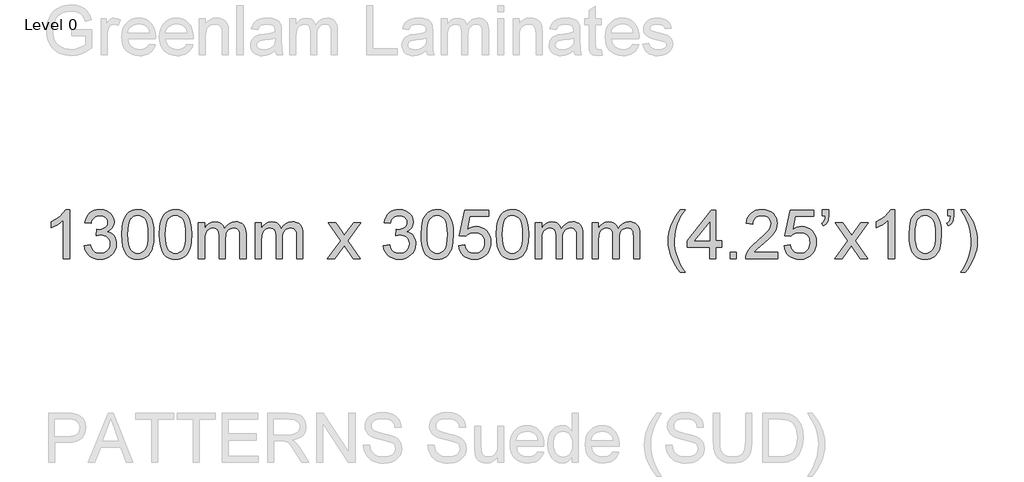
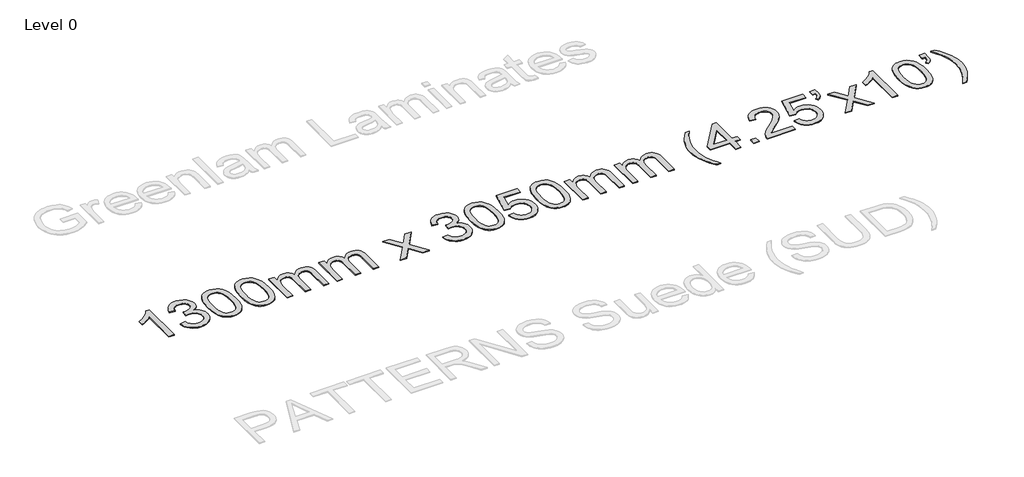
# One storey, part 28 of 29: 1 proxy.
"""IFC4 building model written with IfcOpenShell, lengths in millimetres."""

from ifc_helpers import new_model, si_unit, origin, origin_with_axes, place, context, project, spatial, polyline, outline, extrude, element, save

model = new_model("IFC4")

# Units and contexts
model_context = context("Model", 3, world=origin())
ifc_project = project(units=[si_unit("LENGTHUNIT", "METRE", prefix="MILLI")], contexts=[model_context])

# Site, building, storey
site = spatial("IfcSite", under=ifc_project)
building = spatial("IfcBuilding", under=site)
storey = spatial("IfcBuildingStorey", under=building, Name="Level 0", Elevation=0.0)

# Proxy
placement = place(None, origin())
element("IfcBuildingElementProxy", 1, Name="600mm Arial", ObjectType="600mm Arial", at=placement, inside=storey, context=model_context, shape_type="SweptSolid", body=[
    extrude(outline(polyline([(-10623.1831502, 260.1279527), (-10698.5253828, 260.1279527), (-10698.5253828, 729.8396841), (-10729.9792934, 704.4006441), (-10769.8944899, 678.9983924), (-10811.7962491, 656.796714), (-10849.209848, 640.9593941), (-10849.209848, 712.1813483), (-10790.0360291, 744.3710229), (-10738.7716731, 782.6675386), (-10698.3598359, 823.3920755), (-10671.7435735, 862.8658136), (-10623.1831502, 862.8658136), (-10623.1831502, 260.1279527)])), origin_with_axes(), (0.0, 0.0, 1.0), 10.0),
    extrude(outline(polyline([(-10444.2453477, 420.230197), (-10368.9031151, 429.647976), (-10352.0357256, 382.3015633), (-10340.6635735, 364.3949072), (-10327.3324497, 350.3326179), (-10311.7388516, 339.7100253), (-10293.5792766, 332.1224591), (-10272.8537247, 327.5699194), (-10249.5621959, 326.0524062), (-10222.2653518, 328.1401365), (-10197.9115638, 334.4033275), (-10176.5008316, 344.8419791), (-10158.0331555, 359.4560914), (-10143.1615258, 377.1512153), (-10132.5389332, 396.8329021), (-10126.1653776, 418.5011516), (-10124.0408591, 442.1559639), (-10126.1469835, 464.6841376), (-10132.4653568, 485.1797632), (-10142.9959789, 503.6428409), (-10157.7388499, 520.0733705), (-10175.7282794, 533.5608441), (-10195.9985774, 543.1947539), (-10218.5497437, 548.9750997), (-10243.3817784, 550.9018817), (-10267.1837434, 548.8417425), (-10296.2096329, 542.661325), (-10287.8219234, 618.0035576), (-10275.7553939, 617.1206408), (-10230.6162731, 622.5285061), (-10190.2596183, 638.7521021), (-10173.6497462, 651.0209666), (-10161.7855518, 666.1960989), (-10154.6670352, 684.277499), (-10152.2941963, 705.2651668), (-10154.0140447, 722.3027017), (-10159.1735897, 737.8043293), (-10167.7728313, 751.7700496), (-10179.8117696, 764.1998625), (-10194.5638376, 774.4039893), (-10211.3024684, 781.6926513), (-10250.7394183, 787.523581), (-10271.3959923, 786.052053), (-10290.2499445, 781.637469), (-10307.301275, 774.2798291), (-10322.5499837, 763.9791333), (-10335.6189916, 750.7353814), (-10346.1312196, 734.5485737), (-10354.0866678, 715.4187099), (-10359.485336, 693.3457902), (-10434.8275686, 702.7635693), (-10425.8972332, 738.7332313), (-10412.6442843, 770.4170682), (-10395.068722, 797.8150798), (-10373.1705463, 820.9272661), (-10347.6395358, 839.2753806), (-10319.1654694, 852.3811767), (-10287.748347, 860.2446544), (-10253.3881686, 862.8658136), (-10206.0233617, 857.6970715), (-10162.5213158, 842.1908454), (-10125.8434809, 817.7266928), (-10098.951307, 785.684171), (-10082.4517996, 748.7672128), (-10076.9519637, 709.6797508), (-10082.1758881, 673.2594333), (-10097.8476611, 640.2236301), (-10123.7465535, 612.0806575), (-10159.6518363, 590.3388315), (-10134.5438901, 582.4845509), (-10112.4893645, 571.2825442), (-10093.4882594, 556.7328113), (-10077.5405749, 538.8353522), (-10064.9222225, 518.0316254), (-10055.9091136, 494.7630892), (-10050.5012483, 469.0297436), (-10048.6986265, 440.8315887), (-10052.3038701, 402.6086494), (-10063.1196007, 367.4023425), (-10081.1458185, 335.2126679), (-10106.3825234, 306.0396257), (-10137.1282611, 281.8329904), (-10171.6815775, 264.5425366), (-10210.0424725, 254.1682643), (-10252.2109462, 250.7101736), (-10290.3235209, 253.6624266), (-10325.0515813, 262.5191856), (-10356.3951273, 277.2804507), (-10384.3541589, 297.9462218), (-10407.797439, 323.3024883), (-10425.5937306, 352.1352397), (-10437.7430335, 384.4444759), (-10444.2453477, 420.230197)])), origin_with_axes(), (0.0, 0.0, 1.0), 10.0),
    extrude(outline(polyline([(-9982.774173, 556.6408408), (-9977.2375489, 653.117894), (-9970.3167689, 694.0309704), (-9960.6276769, 730.0604133), (-9948.2116595, 761.5005283), (-9933.1101036, 788.645621), (-9915.3230092, 811.4956915), (-9894.8503761, 830.0507396), (-9871.6232267, 844.4073345), (-9845.5725829, 854.6620451), (-9816.6984448, 860.8148714), (-9785.0008124, 862.8658136), (-9738.5741046, 858.0097712), (-9697.0034391, 843.4416442), (-9662.2385906, 819.7316496), (-9636.2293335, 787.4500046), (-9616.584435, 746.8726205), (-9600.912662, 698.2754089), (-9590.6487543, 636.5632042), (-9587.2274518, 556.6408408), (-9592.7088935, 460.7156105), (-9599.5606956, 419.9404899), (-9609.1532187, 383.9570322), (-9621.472667, 352.5031217), (-9636.505245, 325.3166422), (-9654.2509528, 302.3975939), (-9674.7097902, 283.7459768), (-9697.9645308, 269.2928129), (-9724.0979481, 258.9691244), (-9753.1100419, 252.7749113), (-9785.0008124, 250.7101736), (-9826.4979014, 254.297023), (-9863.2861009, 265.0575714), (-9895.3654109, 282.9918187), (-9922.7358314, 308.0997648), (-9949.0026058, 353.487206), (-9967.7645876, 410.0398657), (-9979.0217766, 477.757744), (-9982.774173, 556.6408408)]), holes=[polyline([(-9907.4319404, 556.7879936), (-9905.2246484, 491.2912029), (-9898.6027725, 438.2748088), (-9887.5663126, 397.7388115), (-9872.1152688, 369.6832108), (-9853.4268635, 350.5947338), (-9832.6783189, 336.9601074), (-9809.8696352, 328.7793315), (-9785.0008124, 326.0524062), (-9760.1319895, 328.7885285), (-9737.3233058, 336.9968956), (-9716.5747613, 350.6775073), (-9697.8863559, 369.8303636), (-9682.4353121, 397.9319495), (-9671.3988523, 438.4587498), (-9664.7769763, 491.4107645), (-9662.5696844, 556.7879936), (-9664.7033999, 620.5511404), (-9671.1045467, 672.6340339), (-9681.7731245, 713.036674), (-9696.7091335, 741.7590608), (-9715.0848392, 761.7810383), (-9736.072507, 776.0824509), (-9759.672137, 784.6632984), (-9785.8837292, 787.523581), (-9810.6237933, 785.0035893), (-9833.0462009, 777.4436143), (-9853.150952, 764.843656), (-9870.9380464, 747.2037143), (-9886.904125, 715.9337447), (-9898.3084669, 673.774468), (-9905.151072, 620.7258843), (-9907.4319404, 556.7879936)])]), origin_with_axes(), (0.0, 0.0, 1.0), 10.0),
    extrude(outline(polyline([(-9521.3029982, 556.6408408), (-9515.7663742, 653.117894), (-9508.8455942, 694.0309704), (-9499.1565021, 730.0604133), (-9486.7404848, 761.5005283), (-9471.6389289, 788.645621), (-9453.8518344, 811.4956915), (-9433.3792014, 830.0507396), (-9410.1520519, 844.4073345), (-9384.1014081, 854.6620451), (-9355.22727, 860.8148714), (-9323.5296376, 862.8658136), (-9277.1029298, 858.0097712), (-9235.5322644, 843.4416442), (-9200.7674158, 819.7316496), (-9174.7581588, 787.4500046), (-9155.1132602, 746.8726205), (-9139.4414872, 698.2754089), (-9129.1775796, 636.5632042), (-9125.756277, 556.6408408), (-9131.2377187, 460.7156105), (-9138.0895209, 419.9404899), (-9147.6820439, 383.9570322), (-9160.0014922, 352.5031217), (-9175.0340703, 325.3166422), (-9192.779778, 302.3975939), (-9213.2386155, 283.7459768), (-9236.4933561, 269.2928129), (-9262.6267733, 258.9691244), (-9291.6388672, 252.7749113), (-9323.5296376, 250.7101736), (-9365.0267267, 254.297023), (-9401.8149262, 265.0575714), (-9433.8942362, 282.9918187), (-9461.2646566, 308.0997648), (-9487.5314311, 353.487206), (-9506.2934128, 410.0398657), (-9517.5506019, 477.757744), (-9521.3029982, 556.6408408)]), holes=[polyline([(-9445.9607656, 556.7879936), (-9443.7534736, 491.2912029), (-9437.1315977, 438.2748088), (-9426.0951379, 397.7388115), (-9410.6440941, 369.6832108), (-9391.9556887, 350.5947338), (-9371.2071442, 336.9601074), (-9348.3984605, 328.7793315), (-9323.5296376, 326.0524062), (-9298.6608147, 328.7885285), (-9275.852131, 336.9968956), (-9255.1035865, 350.6775073), (-9236.4151812, 369.8303636), (-9220.9641374, 397.9319495), (-9209.9276775, 438.4587498), (-9203.3058016, 491.4107645), (-9201.0985096, 556.7879936), (-9203.2322252, 620.5511404), (-9209.6333719, 672.6340339), (-9220.3019498, 713.036674), (-9235.2379588, 741.7590608), (-9253.6136644, 761.7810383), (-9274.6013323, 776.0824509), (-9298.2009622, 784.6632984), (-9324.4125544, 787.523581), (-9349.1526186, 785.0035893), (-9371.5750262, 777.4436143), (-9391.6797772, 764.843656), (-9409.4668717, 747.2037143), (-9425.4329503, 715.9337447), (-9436.8372921, 673.774468), (-9443.6798972, 620.7258843), (-9445.9607656, 556.7879936)])]), origin_with_axes(), (0.0, 0.0, 1.0), 10.0),
    extrude(outline(polyline([(-9040.9962653, 260.1279527), (-9040.9962653, 702.7635693), (-8965.6540327, 702.7635693), (-8965.6540327, 629.9229342), (-8942.9925018, 663.3818017), (-8913.8562478, 689.5933938), (-8879.238552, 706.5343597), (-8840.132696, 712.1813483), (-8798.2309367, 706.4239951), (-8780.397857, 699.2273036), (-8764.6433105, 689.1519354), (-8739.5537585, 661.5056035), (-8723.1462215, 624.6254335), (-8695.6838305, 662.9311462), (-8664.3586787, 690.2923696), (-8629.1707658, 706.7091037), (-8590.120092, 712.1813483), (-8559.958367, 709.9050785), (-8533.4846589, 703.076269), (-8510.6989678, 691.6949197), (-8491.6012937, 675.7610308), (-8476.5043363, 655.0906612), (-8465.7207954, 629.4998699), (-8459.2506708, 598.988657), (-8457.0939626, 563.5570223), (-8457.0939626, 260.1279527), (-8532.4361952, 260.1279527), (-8532.4361952, 531.1834067), (-8534.1836347, 568.7625525), (-8539.4259531, 594.0912279), (-8549.2484024, 611.436864), (-8564.7362344, 625.0668919), (-8584.6570444, 633.8960598), (-8607.7784278, 636.8391157), (-8629.1293791, 634.9537205), (-8648.5949352, 629.2975348), (-8666.175096, 619.8705587), (-8681.8698616, 606.6727921), (-8694.7779211, 589.317959), (-8703.9979636, 567.4197832), (-8709.5299891, 540.9782648), (-8711.3739976, 509.9934038), (-8711.3739976, 260.1279527), (-8786.7162303, 260.1279527), (-8786.7162303, 539.5711162), (-8791.0756319, 582.1718512), (-8796.5248839, 598.8920879), (-8804.1538368, 612.5589041), (-8814.2659932, 623.1814967), (-8827.1648556, 630.7690628), (-8842.8504242, 635.3216025), (-8861.3226989, 636.8391157), (-8890.3485883, 632.7924138), (-8917.0936093, 620.6523079), (-8939.1665291, 600.7131038), (-8954.1761145, 573.269107), (-8962.7845531, 535.1933205), (-8965.6540327, 483.3587473), (-8965.6540327, 260.1279527), (-9040.9962653, 260.1279527)])), origin_with_axes(), (0.0, 0.0, 1.0), 10.0),
    extrude(outline(polyline([(-8344.0806137, 260.1279527), (-8344.0806137, 702.7635693), (-8268.738381, 702.7635693), (-8268.738381, 629.9229342), (-8246.0768501, 663.3818017), (-8216.9405961, 689.5933938), (-8182.3229004, 706.5343597), (-8143.2170443, 712.1813483), (-8101.315285, 706.4239951), (-8083.4822053, 699.2273036), (-8067.7276589, 689.1519354), (-8042.6381068, 661.5056035), (-8026.2305698, 624.6254335), (-7998.7681789, 662.9311462), (-7967.443027, 690.2923696), (-7932.2551142, 706.7091037), (-7893.2044404, 712.1813483), (-7863.0427153, 709.9050785), (-7836.5690072, 703.076269), (-7813.7833161, 691.6949197), (-7794.6856421, 675.7610308), (-7779.5886847, 655.0906612), (-7768.8051437, 629.4998699), (-7762.3350191, 598.988657), (-7760.1783109, 563.5570223), (-7760.1783109, 260.1279527), (-7835.5205435, 260.1279527), (-7835.5205435, 531.1834067), (-7837.267983, 568.7625525), (-7842.5103014, 594.0912279), (-7852.3327507, 611.436864), (-7867.8205827, 625.0668919), (-7887.7413927, 633.8960598), (-7910.8627761, 636.8391157), (-7932.2137274, 634.9537205), (-7951.6792835, 629.2975348), (-7969.2594443, 619.8705587), (-7984.95421, 606.6727921), (-7997.8622695, 589.317959), (-8007.082312, 567.4197832), (-8012.6143375, 540.9782648), (-8014.458346, 509.9934038), (-8014.458346, 260.1279527), (-8089.8005786, 260.1279527), (-8089.8005786, 539.5711162), (-8094.1599802, 582.1718512), (-8099.6092323, 598.8920879), (-8107.2381852, 612.5589041), (-8117.3503415, 623.1814967), (-8130.249204, 630.7690628), (-8145.9347725, 635.3216025), (-8164.4070472, 636.8391157), (-8193.4329366, 632.7924138), (-8220.1779577, 620.6523079), (-8242.2508774, 600.7131038), (-8257.2604628, 573.269107), (-8265.8689015, 535.1933205), (-8268.738381, 483.3587473), (-8268.738381, 260.1279527), (-8344.0806137, 260.1279527)])), origin_with_axes(), (0.0, 0.0, 1.0), 10.0),
    extrude(outline(polyline([(-7458.8093805, 260.1279527), (-7297.8242194, 482.6229834), (-7449.3916014, 702.7635693), (-7358.7454778, 702.7635693), (-7285.6105371, 596.8135547), (-7251.471088, 546.7816033), (-7221.8933756, 587.6900812), (-7138.6048919, 702.7635693), (-7047.9587682, 702.7635693), (-7207.1780958, 482.6229834), (-7053.8448802, 260.1279527), (-7144.4910038, 260.1279527), (-7236.7558082, 393.8898461), (-7253.67838, 418.3172106), (-7368.1632569, 260.1279527), (-7458.8093805, 260.1279527)])), origin_with_axes(), (0.0, 0.0, 1.0), 10.0),
    extrude(outline(polyline([(-6771.3115079, 420.230197), (-6695.9692753, 429.647976), (-6679.1018858, 382.3015633), (-6667.7297336, 364.3949072), (-6654.3986098, 350.3326179), (-6638.8050117, 339.7100253), (-6620.6454368, 332.1224591), (-6599.9198848, 327.5699194), (-6576.628356, 326.0524062), (-6549.331512, 328.1401365), (-6524.9777239, 334.4033275), (-6503.5669918, 344.8419791), (-6485.0993156, 359.4560914), (-6470.227686, 377.1512153), (-6459.6050934, 396.8329021), (-6453.2315378, 418.5011516), (-6451.1070193, 442.1559639), (-6453.2131437, 464.6841376), (-6459.531517, 485.1797632), (-6470.0621391, 503.6428409), (-6484.80501, 520.0733705), (-6502.7944396, 533.5608441), (-6523.0647375, 543.1947539), (-6545.6159038, 548.9750997), (-6570.4479385, 550.9018817), (-6594.2499036, 548.8417425), (-6623.275793, 542.661325), (-6614.8880835, 618.0035576), (-6602.8215541, 617.1206408), (-6557.6824333, 622.5285061), (-6517.3257784, 638.7521021), (-6500.7159063, 651.0209666), (-6488.851712, 666.1960989), (-6481.7331954, 684.277499), (-6479.3603565, 705.2651668), (-6481.0802048, 722.3027017), (-6486.2397498, 737.8043293), (-6494.8389915, 751.7700496), (-6506.8779297, 764.1998625), (-6521.6299977, 774.4039893), (-6538.3686285, 781.6926513), (-6577.8055784, 787.523581), (-6598.4621524, 786.052053), (-6617.3161047, 781.637469), (-6634.3674352, 774.2798291), (-6649.6161439, 763.9791333), (-6662.6851517, 750.7353814), (-6673.1973798, 734.5485737), (-6681.1528279, 715.4187099), (-6686.5514962, 693.3457902), (-6761.8937288, 702.7635693), (-6752.9633934, 738.7332313), (-6739.7104445, 770.4170682), (-6722.1348822, 797.8150798), (-6700.2367064, 820.9272661), (-6674.7056959, 839.2753806), (-6646.2316295, 852.3811767), (-6614.8145071, 860.2446544), (-6580.4543288, 862.8658136), (-6533.0895219, 857.6970715), (-6489.587476, 842.1908454), (-6452.9096411, 817.7266928), (-6426.0174672, 785.684171), (-6409.5179597, 748.7672128), (-6404.0181239, 709.6797508), (-6409.2420482, 673.2594333), (-6424.9138212, 640.2236301), (-6450.8127137, 612.0806575), (-6486.7179964, 590.3388315), (-6461.6100502, 582.4845509), (-6439.5555246, 571.2825442), (-6420.5544196, 556.7328113), (-6404.6067351, 538.8353522), (-6391.9883826, 518.0316254), (-6382.9752738, 494.7630892), (-6377.5674084, 469.0297436), (-6375.7647867, 440.8315887), (-6379.3700302, 402.6086494), (-6390.1857609, 367.4023425), (-6408.2119786, 335.2126679), (-6433.4486835, 306.0396257), (-6464.1944213, 281.8329904), (-6498.7477376, 264.5425366), (-6537.1086327, 254.1682643), (-6579.2771064, 250.7101736), (-6617.3896811, 253.6624266), (-6652.1177414, 262.5191856), (-6683.4612874, 277.2804507), (-6711.4203191, 297.9462218), (-6734.8635992, 323.3024883), (-6752.6598907, 352.1352397), (-6764.8091936, 384.4444759), (-6771.3115079, 420.230197)])), origin_with_axes(), (0.0, 0.0, 1.0), 10.0),
    extrude(outline(polyline([(-6309.8403331, 556.6408408), (-6304.3037091, 653.117894), (-6297.3829291, 694.0309704), (-6287.693837, 730.0604133), (-6275.2778197, 761.5005283), (-6260.1762638, 788.645621), (-6242.3891693, 811.4956915), (-6221.9165363, 830.0507396), (-6198.6893868, 844.4073345), (-6172.638743, 854.6620451), (-6143.7646049, 860.8148714), (-6112.0669725, 862.8658136), (-6065.6402647, 858.0097712), (-6024.0695993, 843.4416442), (-5989.3047507, 819.7316496), (-5963.2954937, 787.4500046), (-5943.6505951, 746.8726205), (-5927.9788221, 698.2754089), (-5917.7149145, 636.5632042), (-5914.2936119, 556.6408408), (-5919.7750536, 460.7156105), (-5926.6268558, 419.9404899), (-5936.2193788, 383.9570322), (-5948.5388271, 352.5031217), (-5963.5714052, 325.3166422), (-5981.3171129, 302.3975939), (-6001.7759504, 283.7459768), (-6025.030691, 269.2928129), (-6051.1641082, 258.9691244), (-6080.1762021, 252.7749113), (-6112.0669725, 250.7101736), (-6153.5640616, 254.297023), (-6190.3522611, 265.0575714), (-6222.4315711, 282.9918187), (-6249.8019915, 308.0997648), (-6276.068766, 353.487206), (-6294.8307477, 410.0398657), (-6306.0879368, 477.757744), (-6309.8403331, 556.6408408)]), holes=[polyline([(-6234.4981005, 556.7879936), (-6232.2908085, 491.2912029), (-6225.6689326, 438.2748088), (-6214.6324728, 397.7388115), (-6199.181429, 369.6832108), (-6180.4930236, 350.5947338), (-6159.7444791, 336.9601074), (-6136.9357954, 328.7793315), (-6112.0669725, 326.0524062), (-6087.1981496, 328.7885285), (-6064.3894659, 336.9968956), (-6043.6409214, 350.6775073), (-6024.9525161, 369.8303636), (-6009.5014723, 397.9319495), (-5998.4650124, 438.4587498), (-5991.8431365, 491.4107645), (-5989.6358445, 556.7879936), (-5991.7695601, 620.5511404), (-5998.1707068, 672.6340339), (-6008.8392847, 713.036674), (-6023.7752937, 741.7590608), (-6042.1509993, 761.7810383), (-6063.1386672, 776.0824509), (-6086.7382972, 784.6632984), (-6112.9498893, 787.523581), (-6137.6899535, 785.0035893), (-6160.1123611, 777.4436143), (-6180.2171121, 764.843656), (-6198.0042066, 747.2037143), (-6213.9702852, 715.9337447), (-6225.374627, 673.774468), (-6232.2172321, 620.7258843), (-6234.4981005, 556.7879936)])]), origin_with_axes(), (0.0, 0.0, 1.0), 10.0),
    extrude(outline(polyline([(-5848.3691584, 420.230197), (-5773.0269258, 429.647976), (-5767.3983312, 405.4275452), (-5759.1945627, 384.4168847), (-5748.4156203, 366.6159947), (-5735.0615039, 352.0248751), (-5719.1598046, 340.6619199), (-5700.7381137, 332.5455234), (-5679.7964311, 327.6756855), (-5656.3347569, 326.0524062), (-5627.6399613, 328.310282), (-5602.32968, 335.0839092), (-5580.4039131, 346.3732879), (-5561.8626605, 362.1784181), (-5547.1197896, 381.7175506), (-5536.5891675, 404.2089361), (-5530.2707942, 429.6525746), (-5528.1646698, 458.0484661), (-5530.137437, 484.8854576), (-5536.0557386, 508.742605), (-5545.9195746, 529.6199082), (-5559.728945, 547.5173673), (-5577.529835, 561.8739622), (-5599.3682299, 572.1286728), (-5625.2441298, 578.2814991), (-5655.1575345, 580.3324413), (-5691.7066107, 577.0582915), (-5721.3027172, 567.2358422), (-5744.9391354, 552.1894686), (-5763.6091467, 533.2435459), (-5838.9513793, 542.661325), (-5773.0269258, 853.4480345), (-5481.0757744, 853.4480345), (-5481.0757744, 778.1058019), (-5712.1056674, 778.1058019), (-5744.3321301, 612.1174457), (-5717.7434589, 631.173733), (-5690.5109942, 644.7853668), (-5662.6347361, 652.9523471), (-5634.1146844, 655.6746739), (-5597.4230539, 652.2993566), (-5563.7204646, 642.1734047), (-5533.0069165, 625.2968181), (-5505.2824097, 601.669597), (-5482.3311717, 572.7356781), (-5465.9374303, 539.9389982), (-5456.1011854, 503.2795574), (-5452.8224372, 462.7573556), (-5455.7746902, 423.7250759), (-5464.6314492, 387.415123), (-5479.3927143, 353.8274968), (-5500.0584853, 322.9621974), (-5531.3652431, 291.351937), (-5567.8959253, 268.7731796), (-5609.6505317, 255.2259251), (-5656.6290625, 250.7101736), (-5695.5095909, 253.6118428), (-5730.6285258, 262.3168505), (-5761.9858674, 276.8251967), (-5789.5816155, 297.1368814), (-5812.5420506, 322.240229), (-5829.9934527, 351.1235642), (-5841.935822, 383.7868868), (-5848.3691584, 420.230197)])), origin_with_axes(), (0.0, 0.0, 1.0), 10.0),
    extrude(outline(polyline([(-5386.8979836, 556.6408408), (-5381.3613596, 653.117894), (-5374.4405796, 694.0309704), (-5364.7514875, 730.0604133), (-5352.3354702, 761.5005283), (-5337.2339143, 788.645621), (-5319.4468198, 811.4956915), (-5298.9741868, 830.0507396), (-5275.7470373, 844.4073345), (-5249.6963935, 854.6620451), (-5220.8222554, 860.8148714), (-5189.124623, 862.8658136), (-5142.6979152, 858.0097712), (-5101.1272498, 843.4416442), (-5066.3624012, 819.7316496), (-5040.3531442, 787.4500046), (-5020.7082456, 746.8726205), (-5005.0364726, 698.2754089), (-4994.772565, 636.5632042), (-4991.3512624, 556.6408408), (-4996.8327041, 460.7156105), (-5003.6845063, 419.9404899), (-5013.2770293, 383.9570322), (-5025.5964776, 352.5031217), (-5040.6290557, 325.3166422), (-5058.3747634, 302.3975939), (-5078.8336009, 283.7459768), (-5102.0883415, 269.2928129), (-5128.2217587, 258.9691244), (-5157.2338526, 252.7749113), (-5189.124623, 250.7101736), (-5230.6217121, 254.297023), (-5267.4099116, 265.0575714), (-5299.4892216, 282.9918187), (-5326.859642, 308.0997648), (-5353.1264165, 353.487206), (-5371.8883982, 410.0398657), (-5383.1455873, 477.757744), (-5386.8979836, 556.6408408)]), holes=[polyline([(-5311.555751, 556.7879936), (-5309.348459, 491.2912029), (-5302.7265831, 438.2748088), (-5291.6901233, 397.7388115), (-5276.2390795, 369.6832108), (-5257.5506741, 350.5947338), (-5236.8021296, 336.9601074), (-5213.9934459, 328.7793315), (-5189.124623, 326.0524062), (-5164.2558001, 328.7885285), (-5141.4471164, 336.9968956), (-5120.6985719, 350.6775073), (-5102.0101666, 369.8303636), (-5086.5591228, 397.9319495), (-5075.5226629, 438.4587498), (-5068.900787, 491.4107645), (-5066.693495, 556.7879936), (-5068.8272106, 620.5511404), (-5075.2283573, 672.6340339), (-5085.8969352, 713.036674), (-5100.8329442, 741.7590608), (-5119.2086498, 761.7810383), (-5140.1963177, 776.0824509), (-5163.7959477, 784.6632984), (-5190.0075398, 787.523581), (-5214.747604, 785.0035893), (-5237.1700116, 777.4436143), (-5257.2747626, 764.843656), (-5275.0618571, 747.2037143), (-5291.0279357, 715.9337447), (-5302.4322775, 673.774468), (-5309.2748826, 620.7258843), (-5311.555751, 556.7879936)])]), origin_with_axes(), (0.0, 0.0, 1.0), 10.0),
    extrude(outline(polyline([(-4906.5912507, 260.1279527), (-4906.5912507, 702.7635693), (-4831.2490181, 702.7635693), (-4831.2490181, 629.9229342), (-4808.5874872, 663.3818017), (-4779.4512332, 689.5933938), (-4744.8335374, 706.5343597), (-4705.7276814, 712.1813483), (-4663.8259221, 706.4239951), (-4645.9928424, 699.2273036), (-4630.2382959, 689.1519354), (-4605.1487439, 661.5056035), (-4588.7412069, 624.6254335), (-4561.278816, 662.9311462), (-4529.9536641, 690.2923696), (-4494.7657512, 706.7091037), (-4455.7150774, 712.1813483), (-4425.5533524, 709.9050785), (-4399.0796443, 703.076269), (-4376.2939532, 691.6949197), (-4357.1962791, 675.7610308), (-4342.0993217, 655.0906612), (-4331.3157808, 629.4998699), (-4324.8456562, 598.988657), (-4322.688948, 563.5570223), (-4322.688948, 260.1279527), (-4398.0311806, 260.1279527), (-4398.0311806, 531.1834067), (-4399.7786201, 568.7625525), (-4405.0209385, 594.0912279), (-4414.8433878, 611.436864), (-4430.3312198, 625.0668919), (-4450.2520298, 633.8960598), (-4473.3734132, 636.8391157), (-4494.7243645, 634.9537205), (-4514.1899206, 629.2975348), (-4531.7700814, 619.8705587), (-4547.464847, 606.6727921), (-4560.3729065, 589.317959), (-4569.592949, 567.4197832), (-4575.1249745, 540.9782648), (-4576.968983, 509.9934038), (-4576.968983, 260.1279527), (-4652.3112157, 260.1279527), (-4652.3112157, 539.5711162), (-4656.6706173, 582.1718512), (-4662.1198694, 598.8920879), (-4669.7488222, 612.5589041), (-4679.8609786, 623.1814967), (-4692.759841, 630.7690628), (-4708.4454096, 635.3216025), (-4726.9176843, 636.8391157), (-4755.9435737, 632.7924138), (-4782.6885947, 620.6523079), (-4804.7615145, 600.7131038), (-4819.7710999, 573.269107), (-4828.3795385, 535.1933205), (-4831.2490181, 483.3587473), (-4831.2490181, 260.1279527), (-4906.5912507, 260.1279527)])), origin_with_axes(), (0.0, 0.0, 1.0), 10.0),
    extrude(outline(polyline([(-4209.6755991, 260.1279527), (-4209.6755991, 702.7635693), (-4134.3333664, 702.7635693), (-4134.3333664, 629.9229342), (-4111.6718355, 663.3818017), (-4082.5355815, 689.5933938), (-4047.9178858, 706.5343597), (-4008.8120297, 712.1813483), (-3966.9102704, 706.4239951), (-3949.0771907, 699.2273036), (-3933.3226443, 689.1519354), (-3908.2330922, 661.5056035), (-3891.8255552, 624.6254335), (-3864.3631643, 662.9311462), (-3833.0380124, 690.2923696), (-3797.8500996, 706.7091037), (-3758.7994258, 712.1813483), (-3728.6377007, 709.9050785), (-3702.1639926, 703.076269), (-3679.3783015, 691.6949197), (-3660.2806275, 675.7610308), (-3645.1836701, 655.0906612), (-3634.4001291, 629.4998699), (-3627.9300045, 598.988657), (-3625.7732963, 563.5570223), (-3625.7732963, 260.1279527), (-3701.1155289, 260.1279527), (-3701.1155289, 531.1834067), (-3702.8629684, 568.7625525), (-3708.1052868, 594.0912279), (-3717.9277361, 611.436864), (-3733.4155681, 625.0668919), (-3753.3363781, 633.8960598), (-3776.4577615, 636.8391157), (-3797.8087128, 634.9537205), (-3817.2742689, 629.2975348), (-3834.8544297, 619.8705587), (-3850.5491954, 606.6727921), (-3863.4572549, 589.317959), (-3872.6772974, 567.4197832), (-3878.2093229, 540.9782648), (-3880.0533314, 509.9934038), (-3880.0533314, 260.1279527), (-3955.395564, 260.1279527), (-3955.395564, 539.5711162), (-3959.7549656, 582.1718512), (-3965.2042177, 598.8920879), (-3972.8331706, 612.5589041), (-3982.9453269, 623.1814967), (-3995.8441894, 630.7690628), (-4011.5297579, 635.3216025), (-4030.0020326, 636.8391157), (-4059.027922, 632.7924138), (-4085.7729431, 620.6523079), (-4107.8458628, 600.7131038), (-4122.8554482, 573.269107), (-4131.4638869, 535.1933205), (-4134.3333664, 483.3587473), (-4134.3333664, 260.1279527), (-4209.6755991, 260.1279527)])), origin_with_axes(), (0.0, 0.0, 1.0), 10.0),
    extrude(outline(polyline([(-3126.6310053, 90.6079293), (-3157.0456492, 129.9621057), (-3185.0138779, 172.5352496), (-3210.5356913, 218.327361), (-3233.6110895, 267.3384398), (-3252.7317562, 318.4188548), (-3266.3893752, 370.4189748), (-3274.5839467, 423.3387998), (-3277.3154705, 477.1783298), (-3275.2737254, 524.4971515), (-3269.1484902, 570.8042976), (-3258.9397648, 616.0997683), (-3244.6475493, 660.3835634), (-3222.9241175, 711.1696729), (-3196.0135496, 761.8454177), (-3163.9158455, 812.4107979), (-3126.6310053, 862.8658136), (-3070.1243308, 862.8658136), (-3114.4541112, 791.2391891), (-3140.6105211, 743.5248943), (-3164.6700036, 686.8710671), (-3182.9905269, 627.862795), (-3197.2275601, 552.4837742), (-3201.9732379, 476.7368714), (-3199.9130987, 428.438564), (-3193.7326812, 380.1494536), (-3183.4319853, 331.8695403), (-3169.0110111, 283.598824), (-3150.4697585, 235.3373047), (-3127.8082276, 187.0849825), (-3101.0264184, 138.8418574), (-3070.1243308, 90.6079293), (-3126.6310053, 90.6079293)])), origin_with_axes(), (0.0, 0.0, 1.0), 10.0),
    extrude(outline(polyline([(-2768.7554004, 260.1279527), (-2768.7554004, 401.3946388), (-3041.8709936, 401.3946388), (-3041.8709936, 476.7368714), (-2749.9198422, 853.4480345), (-2693.4131677, 853.4480345), (-2693.4131677, 476.7368714), (-2618.0709351, 476.7368714), (-2618.0709351, 401.3946388), (-2693.4131677, 401.3946388), (-2693.4131677, 260.1279527), (-2768.7554004, 260.1279527)]), holes=[polyline([(-2768.7554004, 476.7368714), (-2768.7554004, 709.532598), (-2949.1647308, 476.7368714), (-2768.7554004, 476.7368714)])]), origin_with_axes(), (0.0, 0.0, 1.0), 10.0),
    extrude(outline(polyline([(-2514.4753653, 260.1279527), (-2514.4753653, 335.4701853), (-2439.1331327, 335.4701853), (-2439.1331327, 260.1279527), (-2514.4753653, 260.1279527)])), origin_with_axes(), (0.0, 0.0, 1.0), 10.0),
    extrude(outline(polyline([(-1930.5730625, 335.4701853), (-1930.5730625, 260.1279527), (-2326.1197838, 260.1279527), (-2324.4643148, 286.6522445), (-2318.0263799, 312.0728904), (-2299.4483391, 352.6686686), (-2272.2618597, 392.0504361), (-2232.9352744, 433.2716137), (-2177.9369161, 479.3856218), (-2096.6349952, 551.6008574), (-2047.8538426, 604.9069586), (-2033.6260064, 626.6855727), (-2023.4632663, 648.1698812), (-2017.3656223, 669.3598841), (-2015.3330742, 690.2555814), (-2017.2506591, 709.9142755), (-2023.0034138, 727.98188), (-2032.5913383, 744.4583949), (-2046.0144326, 759.3438201), (-2062.5277357, 771.6724655), (-2081.3862865, 780.4786407), (-2102.590085, 785.7623459), (-2126.1391312, 787.523581), (-2150.9481732, 785.8037326), (-2173.1360561, 780.6441876), (-2192.7027797, 772.044946), (-2209.6483441, 760.0060077), (-2223.3565469, 744.932043), (-2233.2111859, 727.2277219), (-2239.2122609, 706.8930447), (-2241.3597721, 683.9280111), (-2316.7020047, 693.3457902), (-2310.222683, 732.2401141), (-2298.4366636, 766.2232134), (-2281.3439464, 795.2950881), (-2258.9445314, 819.4557381), (-2231.7534535, 838.4476461), (-2200.2857473, 852.0132947), (-2164.5414129, 860.1526839), (-2124.5204504, 862.8658136), (-2084.1408029, 859.8491812), (-2048.2033305, 850.7992841), (-2016.7080332, 835.7161223), (-1989.654911, 814.5996958), (-1967.9268806, 789.013503), (-1952.406859, 760.5210425), (-1943.094846, 729.1223142), (-1939.9908416, 694.8173182), (-1943.3385678, 658.7832767), (-1953.3817462, 623.3746347), (-1971.2056289, 587.3589874), (-1997.8954677, 549.5039301), (-2040.4410204, 504.309627), (-2105.832045, 446.2762422), (-2192.5050431, 373.8034892), (-2226.4973395, 335.4701853), (-1930.5730625, 335.4701853)])), origin_with_axes(), (0.0, 0.0, 1.0), 10.0),
    extrude(outline(polyline([(-1855.2308299, 420.230197), (-1779.8885973, 429.647976), (-1774.2600028, 405.4275452), (-1766.0562343, 384.4168847), (-1755.2772918, 366.6159947), (-1741.9231754, 352.0248751), (-1726.0214762, 340.6619199), (-1707.5997853, 332.5455234), (-1686.6581027, 327.6756855), (-1663.1964284, 326.0524062), (-1634.5016328, 328.310282), (-1609.1913516, 335.0839092), (-1587.2655846, 346.3732879), (-1568.7243321, 362.1784181), (-1553.9814611, 381.7175506), (-1543.450839, 404.2089361), (-1537.1324657, 429.6525746), (-1535.0263413, 458.0484661), (-1536.9991085, 484.8854576), (-1542.9174101, 508.742605), (-1552.7812461, 529.6199082), (-1566.5906165, 547.5173673), (-1584.3915066, 561.8739622), (-1606.2299015, 572.1286728), (-1632.1058013, 578.2814991), (-1662.0192061, 580.3324413), (-1698.5682823, 577.0582915), (-1728.1643888, 567.2358422), (-1751.800807, 552.1894686), (-1770.4708182, 533.2435459), (-1845.8130509, 542.661325), (-1779.8885973, 853.4480345), (-1487.9374459, 853.4480345), (-1487.9374459, 778.1058019), (-1718.9673389, 778.1058019), (-1751.1938017, 612.1174457), (-1724.6051305, 631.173733), (-1697.3726658, 644.7853668), (-1669.4964076, 652.9523471), (-1640.9763559, 655.6746739), (-1604.2847254, 652.2993566), (-1570.5821362, 642.1734047), (-1539.8685881, 625.2968181), (-1512.1440812, 601.669597), (-1489.1928433, 572.7356781), (-1472.7991018, 539.9389982), (-1462.962857, 503.2795574), (-1459.6841087, 462.7573556), (-1462.6363617, 423.7250759), (-1471.4931208, 387.415123), (-1486.2543858, 353.8274968), (-1506.9201569, 322.9621974), (-1538.2269147, 291.351937), (-1574.7575968, 268.7731796), (-1616.5122033, 255.2259251), (-1663.490734, 250.7101736), (-1702.3712624, 253.6118428), (-1737.4901974, 262.3168505), (-1768.8475389, 276.8251967), (-1796.4432871, 297.1368814), (-1819.4037221, 322.240229), (-1836.8551243, 351.1235642), (-1848.7974935, 383.7868868), (-1855.2308299, 420.230197)])), origin_with_axes(), (0.0, 0.0, 1.0), 10.0),
    extrude(outline(polyline([(-1384.3418761, 787.523581), (-1384.3418761, 862.8658136), (-1308.9996435, 862.8658136), (-1308.9996435, 787.523581), (-1312.0898523, 742.7155539), (-1321.3604785, 712.4756539), (-1343.3598218, 684.8845043), (-1374.924097, 665.092453), (-1393.7596552, 694.0815542), (-1374.004392, 707.3437001), (-1360.0616644, 726.5287462), (-1351.4532257, 752.8507029), (-1347.7008294, 787.523581), (-1384.3418761, 787.523581)])), origin_with_axes(), (0.0, 0.0, 1.0), 10.0),
    extrude(outline(polyline([(-1233.6574109, 260.1279527), (-1072.6722498, 482.6229834), (-1224.2396318, 702.7635693), (-1133.5935082, 702.7635693), (-1060.4585675, 596.8135547), (-1026.3191184, 546.7816033), (-996.741406, 587.6900812), (-913.4529223, 702.7635693), (-822.8067987, 702.7635693), (-982.0261262, 482.6229834), (-828.6929106, 260.1279527), (-919.3390342, 260.1279527), (-1011.6038386, 393.8898461), (-1028.5264104, 418.3172106), (-1143.0112873, 260.1279527), (-1233.6574109, 260.1279527)])), origin_with_axes(), (0.0, 0.0, 1.0), 10.0),
    extrude(outline(polyline([(-499.0706429, 260.1279527), (-574.4128755, 260.1279527), (-574.4128755, 729.8396841), (-605.8667861, 704.4006441), (-645.7819826, 678.9983924), (-687.6837418, 656.796714), (-725.0973407, 640.9593941), (-725.0973407, 712.1813483), (-665.9235218, 744.3710229), (-614.6591658, 782.6675386), (-574.2473286, 823.3920755), (-547.6310663, 862.8658136), (-499.0706429, 862.8658136), (-499.0706429, 260.1279527)])), origin_with_axes(), (0.0, 0.0, 1.0), 10.0),
    extrude(outline(polyline([(-320.1328405, 556.6408408), (-314.5962164, 653.117894), (-307.6754364, 694.0309704), (-297.9863443, 730.0604133), (-285.570327, 761.5005283), (-270.4687711, 788.645621), (-252.6816766, 811.4956915), (-232.2090436, 830.0507396), (-208.9818941, 844.4073345), (-182.9312504, 854.6620451), (-154.0571123, 860.8148714), (-122.3594798, 862.8658136), (-75.9327721, 858.0097712), (-34.3621066, 843.4416442), (0.4027419, 819.7316496), (26.411999, 787.4500046), (46.0568975, 746.8726205), (61.7286705, 698.2754089), (71.9925782, 636.5632042), (75.4138808, 556.6408408), (69.932439, 460.7156105), (63.0806369, 419.9404899), (53.4881138, 383.9570322), (41.1686655, 352.5031217), (26.1360875, 325.3166422), (8.3903798, 302.3975939), (-12.0684577, 283.7459768), (-35.3231983, 269.2928129), (-61.4566155, 258.9691244), (-90.4687094, 252.7749113), (-122.3594798, 250.7101736), (-163.8565689, 254.297023), (-200.6447684, 265.0575714), (-232.7240784, 282.9918187), (-260.0944988, 308.0997648), (-286.3612733, 353.487206), (-305.1232551, 410.0398657), (-316.3804441, 477.757744), (-320.1328405, 556.6408408)]), holes=[polyline([(-244.7906078, 556.7879936), (-242.5833159, 491.2912029), (-235.96144, 438.2748088), (-224.9249801, 397.7388115), (-209.4739363, 369.6832108), (-190.785531, 350.5947338), (-170.0369864, 336.9601074), (-147.2283027, 328.7793315), (-122.3594798, 326.0524062), (-97.490657, 328.7885285), (-74.6819733, 336.9968956), (-53.9334287, 350.6775073), (-35.2450234, 369.8303636), (-19.7939796, 397.9319495), (-8.7575197, 438.4587498), (-2.1356438, 491.4107645), (0.0716481, 556.7879936), (-2.0620674, 620.5511404), (-8.4632141, 672.6340339), (-19.131792, 713.036674), (-34.067801, 741.7590608), (-52.4435067, 761.7810383), (-73.4311745, 776.0824509), (-97.0308045, 784.6632984), (-123.2423966, 787.523581), (-147.9824608, 785.0035893), (-170.4048684, 777.4436143), (-190.5096195, 764.843656), (-208.2967139, 747.2037143), (-224.2627925, 715.9337447), (-235.6671344, 673.774468), (-242.5097395, 620.7258843), (-244.7906078, 556.7879936)])]), origin_with_axes(), (0.0, 0.0, 1.0), 10.0),
    extrude(outline(polyline([(150.7561134, 787.523581), (150.7561134, 862.8658136), (226.098346, 862.8658136), (226.098346, 787.523581), (223.0081372, 742.7155539), (213.7375109, 712.4756539), (191.7381676, 684.8845043), (160.1738924, 665.092453), (141.3383343, 694.0815542), (161.0935974, 707.3437001), (175.0363251, 726.5287462), (183.6447637, 752.8507029), (187.3971601, 787.523581), (150.7561134, 787.523581)])), origin_with_axes(), (0.0, 0.0, 1.0), 10.0),
    extrude(outline(polyline([(367.3650321, 90.6079293), (310.8583577, 90.6079293), (341.7604453, 138.8418574), (368.5422545, 187.0849825), (391.2037854, 235.3373047), (409.745038, 283.598824), (424.1660122, 331.8695403), (434.4667081, 380.1494536), (440.6471256, 428.438564), (442.7072647, 476.7368714), (437.961587, 551.9319512), (423.7245538, 626.5384199), (405.7351242, 685.6570565), (381.7860063, 742.3476719), (355.5192319, 790.5770015), (310.8583577, 862.8658136), (367.3650321, 862.8658136), (404.6498723, 812.4107979), (436.7475764, 761.8454177), (463.6581444, 711.1696729), (485.3815762, 660.3835634), (499.6737917, 616.0997683), (509.8825171, 570.8042976), (516.0077523, 524.4971515), (518.0494974, 477.1783298), (515.304178, 423.3387998), (507.0682198, 370.4189748), (493.3416229, 318.4188548), (474.1243871, 267.3384398), (450.9800111, 218.327361), (425.4719933, 172.5352496), (397.6003336, 129.9621057), (367.3650321, 90.6079293)])), origin_with_axes(), (0.0, 0.0, 1.0), 10.0),
])

save(model, "model.ifc")
